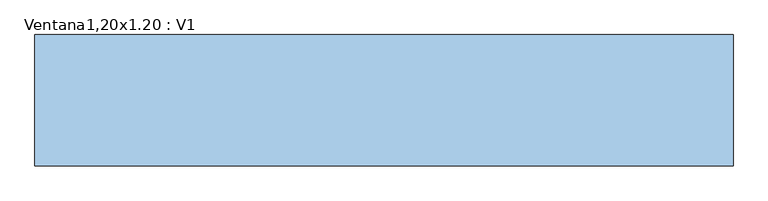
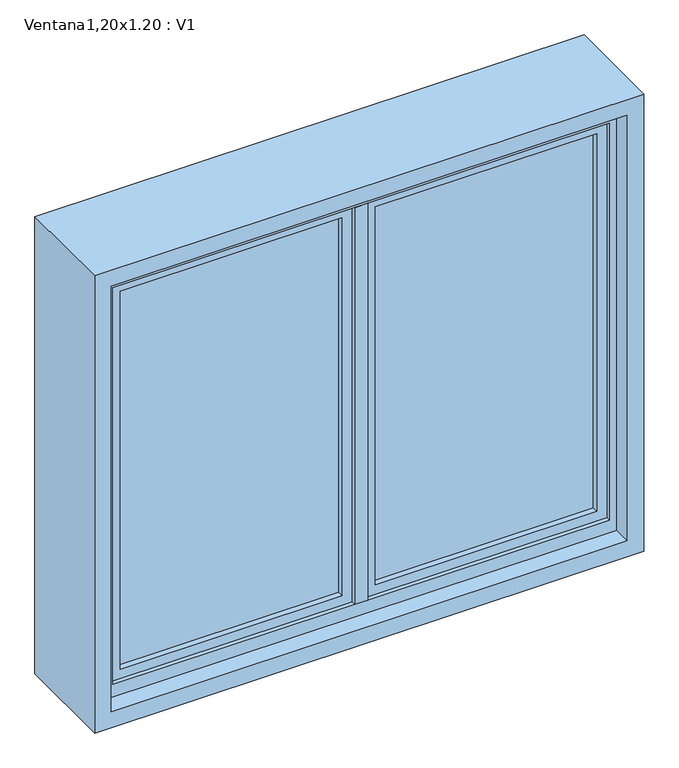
"""IFC4 building model written with IfcOpenShell, lengths in millimetres: window geometry, Ventana1,20x1.20 : V1."""

from ifc_helpers import new_model, si_unit, frame, origin, place, context, project, spatial, polyline, outline, extrude, faceted_brep, source, transform, mapped, element, save


def ventana1_20x1_20_v1_a5540470(model_context):
    return source(origin(), model_context, "Body", "SolidModel", [
        faceted_brep([(-591.953009, 65.0, 2102.0), (-591.953009, -75.0, 2102.0), (-591.953009, -75.0, 1078.0), (-591.953009, 65.0, 1078.0), (-629.953009, -75.0, 1040.0), (620.046991, -75.0, 1040.0), (620.046991, -75.0, 2140.0), (-629.953009, -75.0, 2140.0), (582.046991, -75.0, 2102.0), (582.046991, -75.0, 1078.0), (582.046991, 65.0, 1078.0), (-610.953009, 65.0, 2121.0), (601.046991, 65.0, 2121.0), (601.046991, 65.0, 1059.0), (-610.953009, 65.0, 1059.0), (582.046991, 65.0, 2102.0), (-610.953009, 160.0, 2121.0), (-610.953009, 160.0, 1059.0), (601.046991, 160.0, 1059.0), (-629.953009, 160.0, 2140.0), (620.046991, 160.0, 2140.0), (620.046991, 160.0, 1040.0), (-629.953009, 160.0, 1040.0), (601.046991, 160.0, 2121.0)], [[[0, 1, 2, 3]], [[4, 5, 6, 7], [1, 8, 9, 2]], [[3, 2, 9, 10]], [[11, 12, 13, 14], [3, 10, 15, 0]], [[16, 11, 14, 17]], [[17, 14, 13, 18]], [[19, 20, 21, 22], [17, 18, 23, 16]], [[7, 19, 22, 4]], [[4, 22, 21, 5]], [[10, 9, 8, 15]], [[18, 13, 12, 23]], [[5, 21, 20, 6]], [[15, 8, 1, 0]], [[23, 12, 11, 16]], [[6, 20, 19, 7]]]),
        extrude(outline(polyline([(15.0, 45.0), (15.0, -35.0), (-15.0, -35.0), (-15.0, 45.0), (15.0, 45.0)])), frame((0.0, 0.0, 1110.0), z_axis=(0.0, 0.0, 1.0), x_axis=(1.0, 0.0, 0.0)), (0.0, 0.0, 1.0), 955.0),
        extrude(outline(polyline([(23.0, 21.0), (557.0, 21.0), (557.0, -11.0), (23.0, -11.0), (23.0, 21.0)])), frame((0.0, 0.0, 1118.0), z_axis=(0.0, 0.0, 1.0), x_axis=(1.0, 0.0, 0.0)), (0.0, 0.0, 1.0), 939.0),
        faceted_brep([(15.0, 35.0, 2065.0), (15.0, 35.0, 1110.0), (15.0, -25.0, 1110.0), (15.0, -25.0, 2065.0), (565.0, -25.0, 2065.0), (565.0, -25.0, 1110.0), (38.0, -25.0, 2042.0), (542.0, -25.0, 2042.0), (542.0, -25.0, 1133.0), (38.0, -25.0, 1133.0), (565.0, 35.0, 1110.0), (565.0, 35.0, 2065.0), (542.0, 35.0, 2042.0), (38.0, 35.0, 2042.0), (38.0, 35.0, 1133.0), (542.0, 35.0, 1133.0), (38.0, 21.0, 2042.0), (38.0, 21.0, 1133.0), (542.0, 21.0, 1133.0), (557.0, 21.0, 2057.0), (23.0, 21.0, 2057.0), (23.0, 21.0, 1118.0), (557.0, 21.0, 1118.0), (542.0, 21.0, 2042.0), (23.0, -11.0, 2057.0), (23.0, -11.0, 1118.0), (557.0, -11.0, 1118.0), (557.0, -11.0, 2057.0), (542.0, -11.0, 2042.0), (38.0, -11.0, 2042.0), (38.0, -11.0, 1133.0), (542.0, -11.0, 1133.0)], [[[0, 1, 2, 3]], [[4, 3, 2, 5], [6, 7, 8, 9]], [[1, 10, 5, 2]], [[0, 11, 10, 1], [12, 13, 14, 15]], [[16, 17, 14, 13]], [[17, 18, 15, 14]], [[19, 20, 21, 22], [16, 23, 18, 17]], [[24, 25, 21, 20]], [[25, 26, 22, 21]], [[24, 27, 26, 25], [28, 29, 30, 31]], [[6, 9, 30, 29]], [[9, 8, 31, 30]], [[10, 11, 4, 5]], [[18, 23, 12, 15]], [[26, 27, 19, 22]], [[8, 7, 28, 31]], [[11, 0, 3, 4]], [[23, 16, 13, 12]], [[27, 24, 20, 19]], [[7, 6, 29, 28]]]),
        extrude(outline(polyline([(-23.0, 21.0), (-23.0, -11.0), (-557.0, -11.0), (-557.0, 21.0), (-23.0, 21.0)])), frame((0.0, 0.0, 1118.0), z_axis=(0.0, 0.0, 1.0), x_axis=(1.0, 0.0, 0.0)), (0.0, 0.0, 1.0), 939.0),
        faceted_brep([(-15.0, 35.0, 2065.0), (-15.0, -25.0, 2065.0), (-15.0, -25.0, 1110.0), (-15.0, 35.0, 1110.0), (-565.0, -25.0, 2065.0), (-565.0, -25.0, 1110.0), (-38.0, -25.0, 2042.0), (-38.0, -25.0, 1133.0), (-542.0, -25.0, 1133.0), (-542.0, -25.0, 2042.0), (-565.0, 35.0, 1110.0), (-565.0, 35.0, 2065.0), (-542.0, 35.0, 2042.0), (-542.0, 35.0, 1133.0), (-38.0, 35.0, 1133.0), (-38.0, 35.0, 2042.0), (-38.0, 21.0, 2042.0), (-38.0, 21.0, 1133.0), (-542.0, 21.0, 1133.0), (-557.0, 21.0, 2057.0), (-557.0, 21.0, 1118.0), (-23.0, 21.0, 1118.0), (-23.0, 21.0, 2057.0), (-542.0, 21.0, 2042.0), (-23.0, -11.0, 2057.0), (-23.0, -11.0, 1118.0), (-557.0, -11.0, 1118.0), (-557.0, -11.0, 2057.0), (-542.0, -11.0, 2042.0), (-542.0, -11.0, 1133.0), (-38.0, -11.0, 1133.0), (-38.0, -11.0, 2042.0)], [[[0, 1, 2, 3]], [[4, 5, 2, 1], [6, 7, 8, 9]], [[3, 2, 5, 10]], [[0, 3, 10, 11], [12, 13, 14, 15]], [[16, 15, 14, 17]], [[17, 14, 13, 18]], [[19, 20, 21, 22], [16, 17, 18, 23]], [[24, 22, 21, 25]], [[25, 21, 20, 26]], [[24, 25, 26, 27], [28, 29, 30, 31]], [[6, 31, 30, 7]], [[7, 30, 29, 8]], [[10, 5, 4, 11]], [[18, 13, 12, 23]], [[26, 20, 19, 27]], [[8, 29, 28, 9]], [[11, 4, 1, 0]], [[23, 12, 15, 16]], [[27, 19, 22, 24]], [[9, 28, 31, 6]]]),
        extrude(outline(polyline([(2095.0, -595.0), (1080.0, -595.0), (1080.0, 595.0), (2095.0, 595.0), (2095.0, -595.0)]), holes=[polyline([(2065.0, 565.0), (1110.0, 565.0), (1110.0, -565.0), (2065.0, -565.0), (2065.0, 565.0)])]), frame((0.0, -35.0, 0.0), z_axis=(0.0, 1.0, 0.0), x_axis=(0.0, 0.0, 1.0)), (0.0, 0.0, 1.0), 80.0),
    ])


if __name__ == "__main__":
    model = new_model("IFC4")
    model_context = context("Model", 3, world=origin())
    ifc_project = project(units=[si_unit("LENGTHUNIT", "METRE", prefix="MILLI")], contexts=[model_context])
    site = spatial("IfcSite", under=ifc_project)
    building = spatial("IfcBuilding", under=site)
    placement = place(None, origin())
    ventana1_20x1_20_v1_shape = ventana1_20x1_20_v1_a5540470(model_context)
    element("IfcWindow", 1, ObjectType="Ventana1,20x1.20 : V1", at=placement, inside=building, context=model_context, shape_type="MappedRepresentation", body=[
        mapped(ventana1_20x1_20_v1_shape, transform((0.0, 0.0, 0.0), x_axis=(1.0, 0.0, 0.0), y_axis=(0.0, 1.0, 0.0), z_axis=(0.0, 0.0, 1.0))),
    ])
    save(model, "model.ifc")
